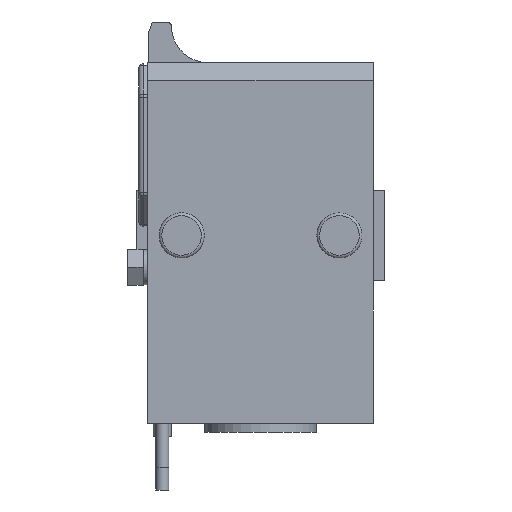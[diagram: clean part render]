
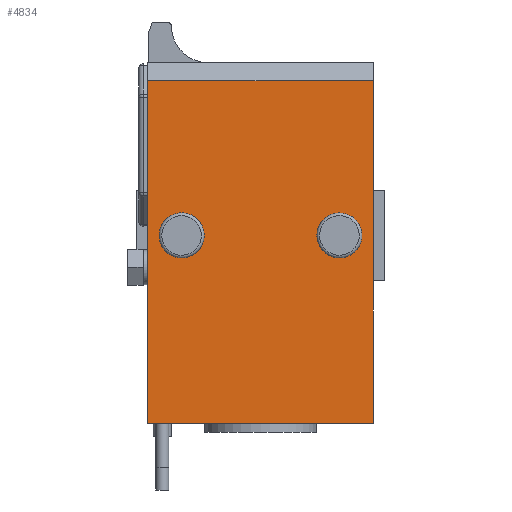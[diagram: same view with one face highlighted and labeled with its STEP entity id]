
A CAD part, front view. The second image highlights one B-rep face of the part: STEP entity #4834.
In plain terms, the highlighted planar face has unit normal (0, -1, 0).
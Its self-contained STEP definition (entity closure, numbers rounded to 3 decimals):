
#54=FACE_BOUND('',#750,.T.);
#55=FACE_BOUND('',#751,.T.);
#252=CIRCLE('',#5202,5.);
#253=CIRCLE('',#5203,5.);
#466=FACE_OUTER_BOUND('',#749,.T.);
#749=EDGE_LOOP('',(#3683,#3684,#3685,#3686));
#750=EDGE_LOOP('',(#3687));
#751=EDGE_LOOP('',(#3688));
#1185=LINE('',#7599,#1659);
#1186=LINE('',#7601,#1660);
#1187=LINE('',#7603,#1661);
#1188=LINE('',#7604,#1662);
#1659=VECTOR('',#6175,76.);
#1660=VECTOR('',#6176,50.);
#1661=VECTOR('',#6177,76.);
#1662=VECTOR('',#6178,50.);
#2120=VERTEX_POINT('',#7597);
#2121=VERTEX_POINT('',#7598);
#2122=VERTEX_POINT('',#7600);
#2123=VERTEX_POINT('',#7602);
#2124=VERTEX_POINT('',#7605);
#2125=VERTEX_POINT('',#7607);
#2678=EDGE_CURVE('',#2120,#2121,#1185,.T.);
#2679=EDGE_CURVE('',#2120,#2122,#1186,.T.);
#2680=EDGE_CURVE('',#2123,#2122,#1187,.T.);
#2681=EDGE_CURVE('',#2121,#2123,#1188,.T.);
#2682=EDGE_CURVE('',#2124,#2124,#252,.T.);
#2683=EDGE_CURVE('',#2125,#2125,#253,.T.);
#3683=ORIENTED_EDGE('',*,*,#2678,.F.);
#3684=ORIENTED_EDGE('',*,*,#2679,.T.);
#3685=ORIENTED_EDGE('',*,*,#2680,.F.);
#3686=ORIENTED_EDGE('',*,*,#2681,.F.);
#3687=ORIENTED_EDGE('',*,*,#2682,.F.);
#3688=ORIENTED_EDGE('',*,*,#2683,.F.);
#4355=PLANE('',#5201);
#4834=ADVANCED_FACE('',(#466,#54,#55),#4355,.T.);
#5201=AXIS2_PLACEMENT_3D('',#7596,#6173,#6174);
#5202=AXIS2_PLACEMENT_3D('',#7606,#6179,#6180);
#5203=AXIS2_PLACEMENT_3D('',#7608,#6181,#6182);
#6173=DIRECTION('center_axis',(0.,-1.,0.));
#6174=DIRECTION('ref_axis',(1.,0.,0.));
#6175=DIRECTION('',(0.,0.,-1.));
#6176=DIRECTION('',(-1.,0.,0.));
#6177=DIRECTION('',(0.,0.,1.));
#6178=DIRECTION('',(-1.,0.,0.));
#6179=DIRECTION('center_axis',(0.,-1.,0.));
#6180=DIRECTION('ref_axis',(-0.818,0.,-0.576));
#6181=DIRECTION('center_axis',(0.,-1.,0.));
#6182=DIRECTION('ref_axis',(-0.787,0.,0.616));
#7596=CARTESIAN_POINT('Origin',(50.,0.,
80.));
#7597=CARTESIAN_POINT('',(50.,0.,76.));
#7598=CARTESIAN_POINT('',(50.,0.,0.));
#7599=CARTESIAN_POINT('',(50.,0.,76.));
#7600=CARTESIAN_POINT('',(0.,0.,76.));
#7601=CARTESIAN_POINT('',(50.,0.,76.));
#7602=CARTESIAN_POINT('',(0.,0.,0.));
#7603=CARTESIAN_POINT('',(0.,0.,0.));
#7604=CARTESIAN_POINT('',(50.,0.,0.));
#7605=CARTESIAN_POINT('',(11.589,0.,44.528));
#7606=CARTESIAN_POINT('Origin',(7.5,0.,
41.65));
#7607=CARTESIAN_POINT('',(46.437,0.,38.568));
#7608=CARTESIAN_POINT('Origin',(42.5,0.,
41.65));
